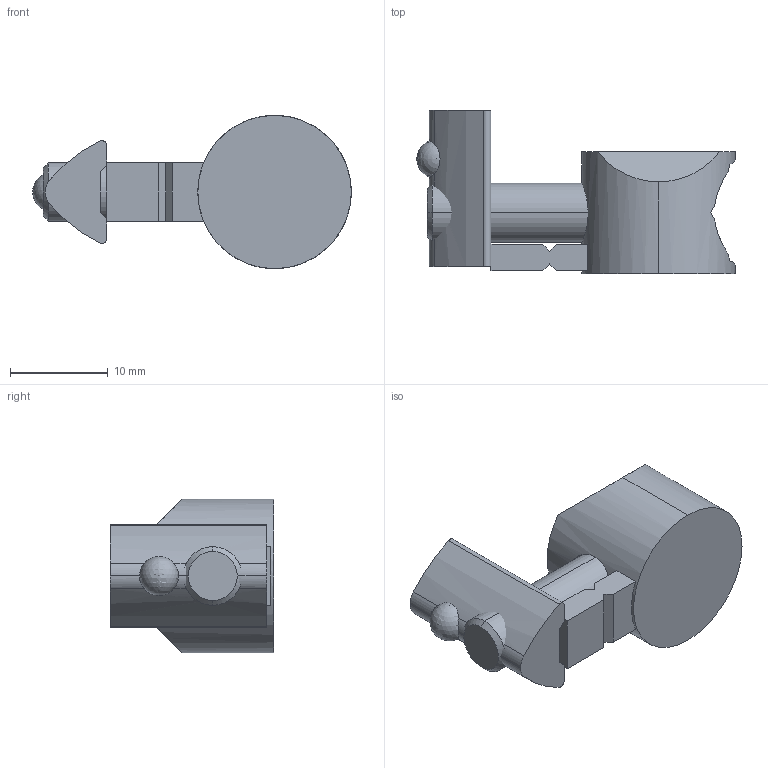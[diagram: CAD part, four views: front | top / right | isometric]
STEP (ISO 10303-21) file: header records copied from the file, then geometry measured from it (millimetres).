
FILE_DESCRIPTION (( 'STEP AP203' ), '1' );
FILE_NAME ('0106UVNSZ.STEP', '2024-09-03T11:16:29', ( 'Windows-Benutzer' ), ( '' ), 'SwSTEP 2.0', 'SolidWorks 2024', '' );
FILE_SCHEMA (( 'CONFIG_CONTROL_DESIGN' ));
Length unit declared in the file: millimetre
Products named in the file (4): 099A0630S01-1_Standard<Wie bearbeitet>; 099A0630S01-T-slot nut_Standard<Wie bearbeitet>; 0106UVNSZ; 099A0630S01-Screw_Standard<Wie bearbeitet>
Assembly tree (3 placements, depth 2):
  0106UVNSZ
    099A0630S01-1_Standard<Wie bearbeitet>
    099A0630S01-Screw_Standard<Wie bearbeitet>
    099A0630S01-T-slot nut_Standard<Wie bearbeitet>
Bounding box: 32.6 x 16.75 x 15.7 mm (x, y, z)
Volume: 2797.2 mm3; surface area: 2720.9 mm2
Topology: 3 solids, 3 shells, 91 faces, 243 edges, 157 vertices
Faces by surface type: plane 51, cylinder 27, torus 6, cone 6, sphere 1
Entity records: 3426 total; most frequent: CARTESIAN_POINT 802, ORIENTED_EDGE 476, DIRECTION 458, EDGE_CURVE 238, AXIS2_PLACEMENT_3D 165, VERTEX_POINT 155, LINE 128, VECTOR 128
